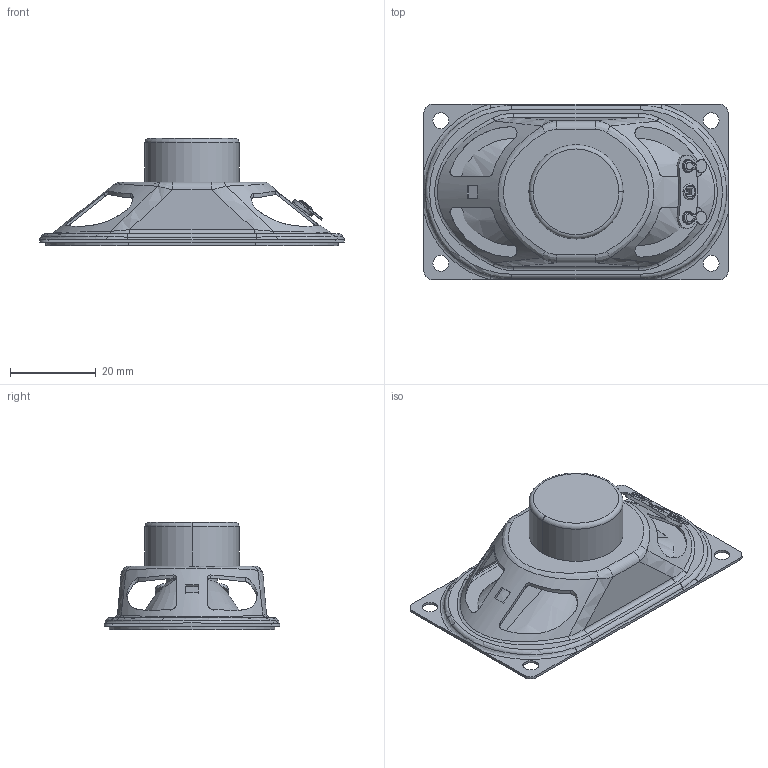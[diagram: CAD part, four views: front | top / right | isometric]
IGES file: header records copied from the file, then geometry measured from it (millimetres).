
Global section: file name: No Iges File Name specified; native system: AutoDesk Inventor R12.0; preprocessor: AutoDesk Inventor Iges Exporter R12.0; date: 20090223.090406; units: millimetre
Bounding box: 71 x 41 x 25 mm (x, y, z)
Volume: 10123.6 mm3; surface area: 14285.2 mm2
Topology: 3 solids, 3 shells, 275 faces, 688 edges, 429 vertices
Faces by surface type: plane 85, bspline 74, revolution 48, cylinder 44, torus 20, cone 4
